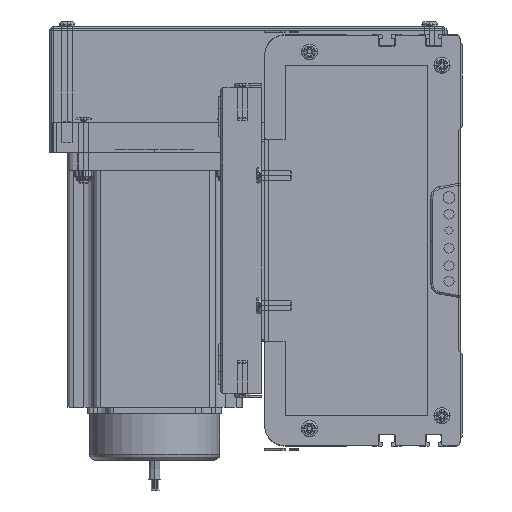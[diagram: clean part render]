
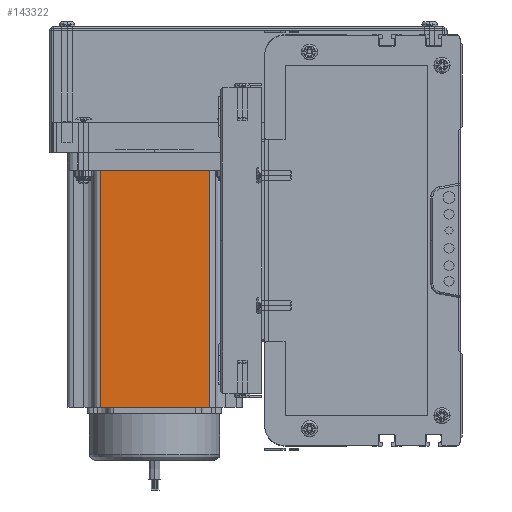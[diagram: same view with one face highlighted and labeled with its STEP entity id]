
A CAD part, left-side view. The second image highlights one B-rep face of the part: STEP entity #143322.
In plain terms, the highlighted planar face has unit normal (-1, 0, 0) as drawn and (0, -1, 0) by its records, which use the part's own axes.
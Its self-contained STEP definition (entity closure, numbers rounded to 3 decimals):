
#17804 = DIRECTION ( 'NONE',  ( 1., 0., 0. ) ) ;
#17805 = CARTESIAN_POINT ( 'NONE',  ( 0., 0., 0. ) ) ;
#17810 = CARTESIAN_POINT ( 'NONE',  ( 69.74, 0., 116.5 ) ) ;
#17824 = LINE ( 'NONE', #17805, #17965 ) ;
#17965 = VECTOR ( 'NONE', #17804, 1000. ) ;
#18071 = DIRECTION ( 'NONE',  ( 0., 0., 1. ) ) ;
#18073 = VECTOR ( 'NONE', #18071, 1000. ) ;
#18084 = DIRECTION ( 'NONE',  ( 0., 0., 1. ) ) ;
#18086 = DIRECTION ( 'NONE',  ( 0., 1., 0. ) ) ;
#18089 = CARTESIAN_POINT ( 'NONE',  ( 69.74, 0., 116.5 ) ) ;
#18090 = LINE ( 'NONE', #18089, #18073 ) ;
#18096 = PLANE ( 'NONE',  #18132 ) ;
#18100 = FACE_OUTER_BOUND ( 'NONE', #143283, .T. ) ;
#18108 = CARTESIAN_POINT ( 'NONE',  ( 16.16, 0., 0. ) ) ;
#18131 = CARTESIAN_POINT ( 'NONE',  ( 16.16, 0., 116.5 ) ) ;
#18132 = AXIS2_PLACEMENT_3D ( 'NONE', #18143, #18086, #18084 ) ;
#18143 = CARTESIAN_POINT ( 'NONE',  ( 0., 0., 116.5 ) ) ;
#18150 = CARTESIAN_POINT ( 'NONE',  ( 69.74, 0., 0. ) ) ;
#18157 = DIRECTION ( 'NONE',  ( 1., 0., 0. ) ) ;
#18158 = VECTOR ( 'NONE', #18157, 1000. ) ;
#18160 = LINE ( 'NONE', #18346, #18344 ) ;
#18193 = LINE ( 'NONE', #18208, #18158 ) ;
#18208 = CARTESIAN_POINT ( 'NONE',  ( 0., 0., 116.5 ) ) ;
#18342 = DIRECTION ( 'NONE',  ( 0., 0., -1. ) ) ;
#18344 = VECTOR ( 'NONE', #18342, 1000. ) ;
#18346 = CARTESIAN_POINT ( 'NONE',  ( 16.16, 0., 116.5 ) ) ;
#143283 = EDGE_LOOP ( 'NONE', ( #143325, #143333, #143329, #143331 ) ) ;
#143299 = VERTEX_POINT ( 'NONE', #17810 ) ;
#143303 = EDGE_CURVE ( 'NONE', #143312, #143316, #17824, .T. ) ;
#143312 = VERTEX_POINT ( 'NONE', #18108 ) ;
#143316 = VERTEX_POINT ( 'NONE', #18150 ) ;
#143322 = ADVANCED_FACE ( 'NONE', ( #18100 ), #18096, .F. ) ;
#143323 = VERTEX_POINT ( 'NONE', #18131 ) ;
#143325 = ORIENTED_EDGE ( 'NONE', *, *, #143303, .T. ) ;
#143329 = ORIENTED_EDGE ( 'NONE', *, *, #143374, .F. ) ;
#143331 = ORIENTED_EDGE ( 'NONE', *, *, #143381, .T. ) ;
#143333 = ORIENTED_EDGE ( 'NONE', *, *, #143334, .T. ) ;
#143334 = EDGE_CURVE ( 'NONE', #143316, #143299, #18090, .T. ) ;
#143374 = EDGE_CURVE ( 'NONE', #143323, #143299, #18193, .T. ) ;
#143381 = EDGE_CURVE ( 'NONE', #143323, #143312, #18160, .T. ) ;
